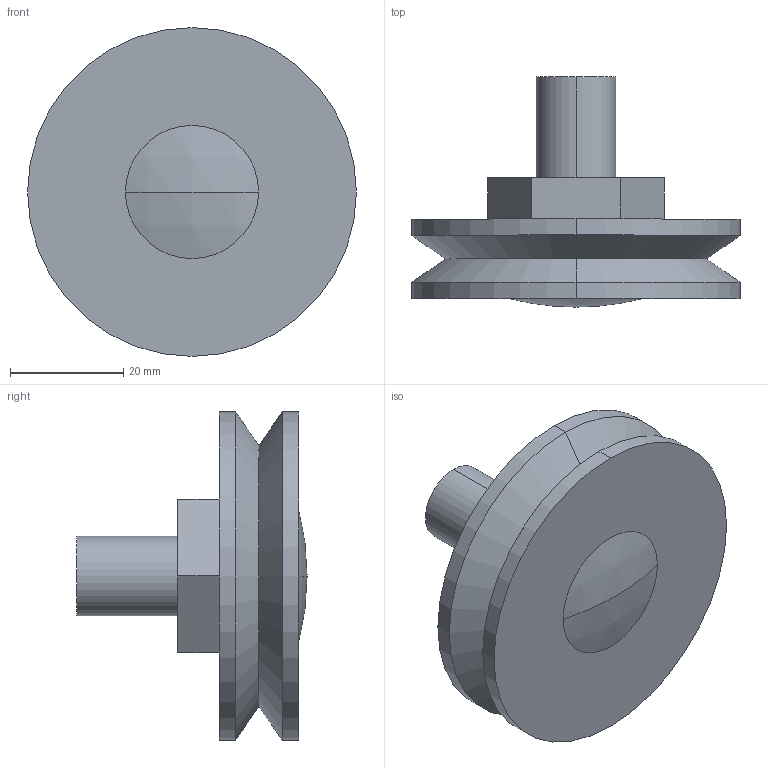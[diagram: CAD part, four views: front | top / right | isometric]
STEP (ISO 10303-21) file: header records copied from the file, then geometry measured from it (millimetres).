
FILE_DESCRIPTION(('STEP AP203'),'1');
FILE_NAME('gbhj_580_c_ns.stp','2021-09-29T05:45:05',('TraceParts'),('TraceParts S.A.'),'Spatial InterOp 3D',' ',' ');
FILE_SCHEMA(('CONFIG_CONTROL_DESIGN'));
Length unit declared in the file: millimetre
Products named in the file (1): 1
Bounding box: 58 x 40.6 x 58 mm (x, y, z)
Volume: 40443.4 mm3; surface area: 10166.1 mm2
Topology: 1 solids, 1 shells, 22 faces, 46 edges, 29 vertices
Faces by surface type: plane 10, cylinder 6, cone 4, sphere 2
Entity records: 632 total; most frequent: DIRECTION 110, CARTESIAN_POINT 98, ORIENTED_EDGE 92, EDGE_CURVE 46, AXIS2_PLACEMENT_3D 41, VERTEX_POINT 29, LINE 28, VECTOR 28
